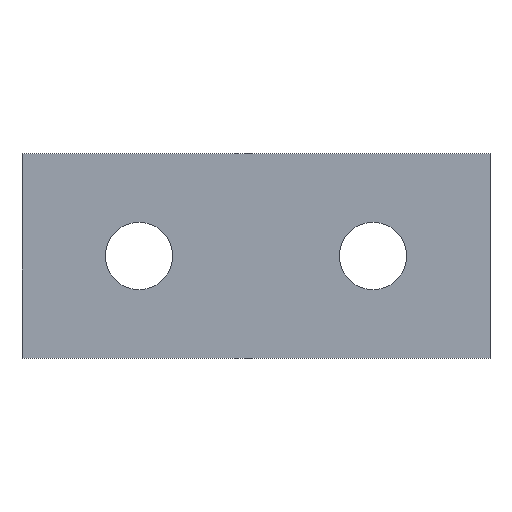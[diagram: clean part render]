
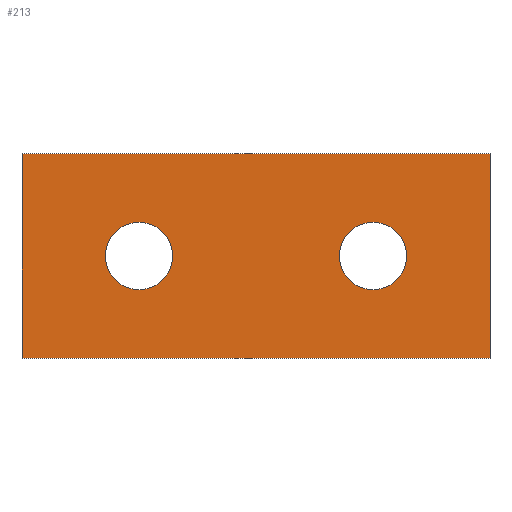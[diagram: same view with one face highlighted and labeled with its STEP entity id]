
A CAD part, top view. The second image highlights one B-rep face of the part: STEP entity #213.
In plain terms, the highlighted planar face has unit normal (0, 0, 1).
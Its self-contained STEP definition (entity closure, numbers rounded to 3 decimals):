
#24 = VERTEX_POINT('',#25);
#25 = CARTESIAN_POINT('',(-16.,-7.,4.));
#32 = PLANE('',#33);
#33 = AXIS2_PLACEMENT_3D('',#34,#35,#36);
#34 = CARTESIAN_POINT('',(-16.,-7.,0.));
#35 = DIRECTION('',(1.,0.,0.));
#36 = DIRECTION('',(0.,0.,1.));
#44 = PLANE('',#45);
#45 = AXIS2_PLACEMENT_3D('',#46,#47,#48);
#46 = CARTESIAN_POINT('',(-16.,-7.,0.));
#47 = DIRECTION('',(0.,1.,0.));
#48 = DIRECTION('',(0.,0.,1.));
#85 = VERTEX_POINT('',#86);
#86 = CARTESIAN_POINT('',(-16.,7.,4.));
#100 = PLANE('',#101);
#101 = AXIS2_PLACEMENT_3D('',#102,#103,#104);
#102 = CARTESIAN_POINT('',(-16.,7.,0.));
#103 = DIRECTION('',(0.,1.,0.));
#104 = DIRECTION('',(0.,0.,1.));
#112 = EDGE_CURVE('',#24,#85,#113,.T.);
#113 = SURFACE_CURVE('',#114,(#118,#125),.PCURVE_S1.);
#114 = LINE('',#115,#116);
#115 = CARTESIAN_POINT('',(-16.,-7.,4.));
#116 = VECTOR('',#117,1.);
#117 = DIRECTION('',(0.,1.,0.));
#118 = PCURVE('',#32,#119);
#119 = DEFINITIONAL_REPRESENTATION('',(#120),#124);
#120 = LINE('',#121,#122);
#121 = CARTESIAN_POINT('',(4.,0.));
#122 = VECTOR('',#123,1.);
#123 = DIRECTION('',(0.,-1.));
#124 = ( GEOMETRIC_REPRESENTATION_CONTEXT(2) 
PARAMETRIC_REPRESENTATION_CONTEXT() REPRESENTATION_CONTEXT('2D SPACE',''
  ) );
#125 = PCURVE('',#126,#131);
#126 = PLANE('',#127);
#127 = AXIS2_PLACEMENT_3D('',#128,#129,#130);
#128 = CARTESIAN_POINT('',(-16.,-7.,4.));
#129 = DIRECTION('',(0.,0.,1.));
#130 = DIRECTION('',(1.,0.,0.));
#131 = DEFINITIONAL_REPRESENTATION('',(#132),#136);
#132 = LINE('',#133,#134);
#133 = CARTESIAN_POINT('',(0.,0.));
#134 = VECTOR('',#135,1.);
#135 = DIRECTION('',(0.,1.));
#136 = ( GEOMETRIC_REPRESENTATION_CONTEXT(2) 
PARAMETRIC_REPRESENTATION_CONTEXT() REPRESENTATION_CONTEXT('2D SPACE',''
  ) );
#165 = EDGE_CURVE('',#24,#166,#168,.T.);
#166 = VERTEX_POINT('',#167);
#167 = CARTESIAN_POINT('',(16.,-7.,4.));
#168 = SURFACE_CURVE('',#169,(#173,#180),.PCURVE_S1.);
#169 = LINE('',#170,#171);
#170 = CARTESIAN_POINT('',(-16.,-7.,4.));
#171 = VECTOR('',#172,1.);
#172 = DIRECTION('',(1.,0.,0.));
#173 = PCURVE('',#44,#174);
#174 = DEFINITIONAL_REPRESENTATION('',(#175),#179);
#175 = LINE('',#176,#177);
#176 = CARTESIAN_POINT('',(4.,0.));
#177 = VECTOR('',#178,1.);
#178 = DIRECTION('',(0.,1.));
#179 = ( GEOMETRIC_REPRESENTATION_CONTEXT(2) 
PARAMETRIC_REPRESENTATION_CONTEXT() REPRESENTATION_CONTEXT('2D SPACE',''
  ) );
#180 = PCURVE('',#126,#181);
#181 = DEFINITIONAL_REPRESENTATION('',(#182),#186);
#182 = LINE('',#183,#184);
#183 = CARTESIAN_POINT('',(0.,0.));
#184 = VECTOR('',#185,1.);
#185 = DIRECTION('',(1.,0.));
#186 = ( GEOMETRIC_REPRESENTATION_CONTEXT(2) 
PARAMETRIC_REPRESENTATION_CONTEXT() REPRESENTATION_CONTEXT('2D SPACE',''
  ) );
#202 = PLANE('',#203);
#203 = AXIS2_PLACEMENT_3D('',#204,#205,#206);
#204 = CARTESIAN_POINT('',(16.,-7.,0.));
#205 = DIRECTION('',(1.,0.,0.));
#206 = DIRECTION('',(0.,0.,1.));
#213 = ADVANCED_FACE('',(#214,#262,#297),#126,.T.);
#214 = FACE_BOUND('',#215,.T.);
#215 = EDGE_LOOP('',(#216,#217,#218,#241));
#216 = ORIENTED_EDGE('',*,*,#112,.F.);
#217 = ORIENTED_EDGE('',*,*,#165,.T.);
#218 = ORIENTED_EDGE('',*,*,#219,.T.);
#219 = EDGE_CURVE('',#166,#220,#222,.T.);
#220 = VERTEX_POINT('',#221);
#221 = CARTESIAN_POINT('',(16.,7.,4.));
#222 = SURFACE_CURVE('',#223,(#227,#234),.PCURVE_S1.);
#223 = LINE('',#224,#225);
#224 = CARTESIAN_POINT('',(16.,-7.,4.));
#225 = VECTOR('',#226,1.);
#226 = DIRECTION('',(0.,1.,0.));
#227 = PCURVE('',#126,#228);
#228 = DEFINITIONAL_REPRESENTATION('',(#229),#233);
#229 = LINE('',#230,#231);
#230 = CARTESIAN_POINT('',(32.,0.));
#231 = VECTOR('',#232,1.);
#232 = DIRECTION('',(0.,1.));
#233 = ( GEOMETRIC_REPRESENTATION_CONTEXT(2) 
PARAMETRIC_REPRESENTATION_CONTEXT() REPRESENTATION_CONTEXT('2D SPACE',''
  ) );
#234 = PCURVE('',#202,#235);
#235 = DEFINITIONAL_REPRESENTATION('',(#236),#240);
#236 = LINE('',#237,#238);
#237 = CARTESIAN_POINT('',(4.,0.));
#238 = VECTOR('',#239,1.);
#239 = DIRECTION('',(0.,-1.));
#240 = ( GEOMETRIC_REPRESENTATION_CONTEXT(2) 
PARAMETRIC_REPRESENTATION_CONTEXT() REPRESENTATION_CONTEXT('2D SPACE',''
  ) );
#241 = ORIENTED_EDGE('',*,*,#242,.F.);
#242 = EDGE_CURVE('',#85,#220,#243,.T.);
#243 = SURFACE_CURVE('',#244,(#248,#255),.PCURVE_S1.);
#244 = LINE('',#245,#246);
#245 = CARTESIAN_POINT('',(-16.,7.,4.));
#246 = VECTOR('',#247,1.);
#247 = DIRECTION('',(1.,0.,0.));
#248 = PCURVE('',#126,#249);
#249 = DEFINITIONAL_REPRESENTATION('',(#250),#254);
#250 = LINE('',#251,#252);
#251 = CARTESIAN_POINT('',(0.,14.));
#252 = VECTOR('',#253,1.);
#253 = DIRECTION('',(1.,0.));
#254 = ( GEOMETRIC_REPRESENTATION_CONTEXT(2) 
PARAMETRIC_REPRESENTATION_CONTEXT() REPRESENTATION_CONTEXT('2D SPACE',''
  ) );
#255 = PCURVE('',#100,#256);
#256 = DEFINITIONAL_REPRESENTATION('',(#257),#261);
#257 = LINE('',#258,#259);
#258 = CARTESIAN_POINT('',(4.,0.));
#259 = VECTOR('',#260,1.);
#260 = DIRECTION('',(0.,1.));
#261 = ( GEOMETRIC_REPRESENTATION_CONTEXT(2) 
PARAMETRIC_REPRESENTATION_CONTEXT() REPRESENTATION_CONTEXT('2D SPACE',''
  ) );
#262 = FACE_BOUND('',#263,.T.);
#263 = EDGE_LOOP('',(#264));
#264 = ORIENTED_EDGE('',*,*,#265,.T.);
#265 = EDGE_CURVE('',#266,#266,#268,.T.);
#266 = VERTEX_POINT('',#267);
#267 = CARTESIAN_POINT('',(-5.7,0.,4.));
#268 = SURFACE_CURVE('',#269,(#274,#285),.PCURVE_S1.);
#269 = CIRCLE('',#270,2.3);
#270 = AXIS2_PLACEMENT_3D('',#271,#272,#273);
#271 = CARTESIAN_POINT('',(-8.,0.,4.));
#272 = DIRECTION('',(0.,0.,-1.));
#273 = DIRECTION('',(1.,0.,0.));
#274 = PCURVE('',#126,#275);
#275 = DEFINITIONAL_REPRESENTATION('',(#276),#284);
#276 = ( BOUNDED_CURVE() B_SPLINE_CURVE(2,(#277,#278,#279,#280,#281,#282
,#283),.UNSPECIFIED.,.T.,.F.) B_SPLINE_CURVE_WITH_KNOTS((1,2,2,2,2,1),(
    -2.094,0.,2.094,4.189,6.283,
8.378),.UNSPECIFIED.) CURVE() GEOMETRIC_REPRESENTATION_ITEM() 
RATIONAL_B_SPLINE_CURVE((1.,0.5,1.,0.5,1.,0.5,1.)) REPRESENTATION_ITEM(
  '') );
#277 = CARTESIAN_POINT('',(10.3,7.));
#278 = CARTESIAN_POINT('',(10.3,3.016));
#279 = CARTESIAN_POINT('',(6.85,5.008));
#280 = CARTESIAN_POINT('',(3.4,7.));
#281 = CARTESIAN_POINT('',(6.85,8.992));
#282 = CARTESIAN_POINT('',(10.3,10.984));
#283 = CARTESIAN_POINT('',(10.3,7.));
#284 = ( GEOMETRIC_REPRESENTATION_CONTEXT(2) 
PARAMETRIC_REPRESENTATION_CONTEXT() REPRESENTATION_CONTEXT('2D SPACE',''
  ) );
#285 = PCURVE('',#286,#291);
#286 = CYLINDRICAL_SURFACE('',#287,2.3);
#287 = AXIS2_PLACEMENT_3D('',#288,#289,#290);
#288 = CARTESIAN_POINT('',(-8.,0.,-1.));
#289 = DIRECTION('',(-0.,-0.,-1.));
#290 = DIRECTION('',(1.,0.,0.));
#291 = DEFINITIONAL_REPRESENTATION('',(#292),#296);
#292 = LINE('',#293,#294);
#293 = CARTESIAN_POINT('',(-6.283,-5.));
#294 = VECTOR('',#295,1.);
#295 = DIRECTION('',(1.,-0.));
#296 = ( GEOMETRIC_REPRESENTATION_CONTEXT(2) 
PARAMETRIC_REPRESENTATION_CONTEXT() REPRESENTATION_CONTEXT('2D SPACE',''
  ) );
#297 = FACE_BOUND('',#298,.T.);
#298 = EDGE_LOOP('',(#299));
#299 = ORIENTED_EDGE('',*,*,#300,.T.);
#300 = EDGE_CURVE('',#301,#301,#303,.T.);
#301 = VERTEX_POINT('',#302);
#302 = CARTESIAN_POINT('',(10.3,0.,4.));
#303 = SURFACE_CURVE('',#304,(#309,#320),.PCURVE_S1.);
#304 = CIRCLE('',#305,2.3);
#305 = AXIS2_PLACEMENT_3D('',#306,#307,#308);
#306 = CARTESIAN_POINT('',(8.,0.,4.));
#307 = DIRECTION('',(0.,0.,-1.));
#308 = DIRECTION('',(1.,0.,0.));
#309 = PCURVE('',#126,#310);
#310 = DEFINITIONAL_REPRESENTATION('',(#311),#319);
#311 = ( BOUNDED_CURVE() B_SPLINE_CURVE(2,(#312,#313,#314,#315,#316,#317
,#318),.UNSPECIFIED.,.T.,.F.) B_SPLINE_CURVE_WITH_KNOTS((1,2,2,2,2,1),(
    -2.094,0.,2.094,4.189,6.283,
8.378),.UNSPECIFIED.) CURVE() GEOMETRIC_REPRESENTATION_ITEM() 
RATIONAL_B_SPLINE_CURVE((1.,0.5,1.,0.5,1.,0.5,1.)) REPRESENTATION_ITEM(
  '') );
#312 = CARTESIAN_POINT('',(26.3,7.));
#313 = CARTESIAN_POINT('',(26.3,3.016));
#314 = CARTESIAN_POINT('',(22.85,5.008));
#315 = CARTESIAN_POINT('',(19.4,7.));
#316 = CARTESIAN_POINT('',(22.85,8.992));
#317 = CARTESIAN_POINT('',(26.3,10.984));
#318 = CARTESIAN_POINT('',(26.3,7.));
#319 = ( GEOMETRIC_REPRESENTATION_CONTEXT(2) 
PARAMETRIC_REPRESENTATION_CONTEXT() REPRESENTATION_CONTEXT('2D SPACE',''
  ) );
#320 = PCURVE('',#321,#326);
#321 = CYLINDRICAL_SURFACE('',#322,2.3);
#322 = AXIS2_PLACEMENT_3D('',#323,#324,#325);
#323 = CARTESIAN_POINT('',(8.,0.,-1.));
#324 = DIRECTION('',(-0.,-0.,-1.));
#325 = DIRECTION('',(1.,0.,0.));
#326 = DEFINITIONAL_REPRESENTATION('',(#327),#331);
#327 = LINE('',#328,#329);
#328 = CARTESIAN_POINT('',(-6.283,-5.));
#329 = VECTOR('',#330,1.);
#330 = DIRECTION('',(1.,-0.));
#331 = ( GEOMETRIC_REPRESENTATION_CONTEXT(2) 
PARAMETRIC_REPRESENTATION_CONTEXT() REPRESENTATION_CONTEXT('2D SPACE',''
  ) );
